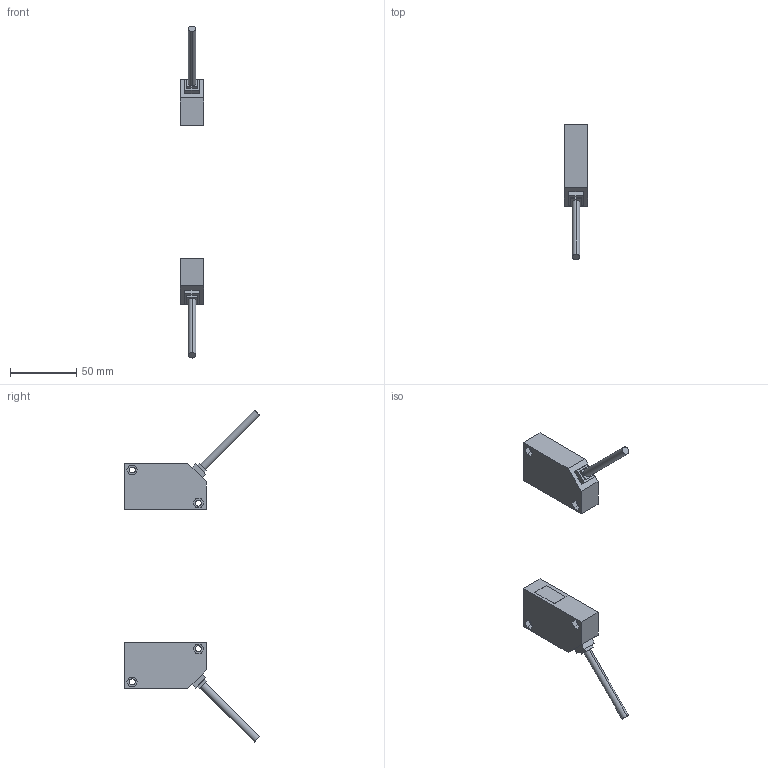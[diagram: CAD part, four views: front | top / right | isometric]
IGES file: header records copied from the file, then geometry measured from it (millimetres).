
Start section: SolidWorks IGES FILE using analytic representation for surfaces
Global section: file name: \\intra-srv04\開発データ\CAD_Data\CAD委員会\3D電子ｶﾀﾛｸﾞ\製品カタログ（新）\0_IGES\NX5-M10RA.IGS,41HSolidWorks 2004; native system: by SolidWorks Corporation; preprocessor: Version 5.3; author: yk0651; date: 051025.133252; units: millimetre
Bounding box: 18 x 102.31 x 250.74 mm (x, y, z)
Volume: 76806.5 mm3; surface area: 18795.4 mm2
Topology: 2 solids, 2 shells, 128 faces, 312 edges, 208 vertices
Faces by surface type: plane 110, revolution 18
